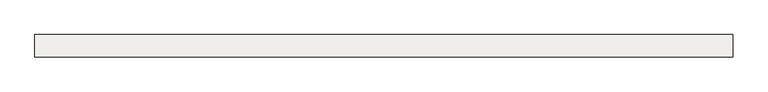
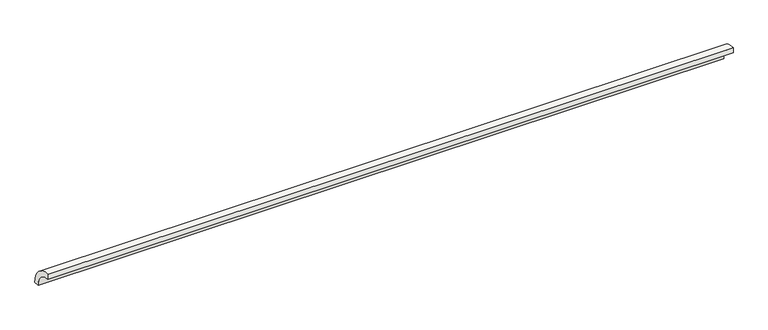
"""IFC4 building model written with IfcOpenShell, lengths in millimetres: slab geometry, ROSA GRES_183 : Pieza 183_Serena_Ocra_Anti-Slip."""

from ifc_helpers import new_model, si_unit, point, frame, frame_2d, origin, origin_2d, place, context, project, spatial, polyline, circle_curve, trimmed, segment, composite_curve, outline, extrude, source, transform, mapped, element, save


def slab_ec17df41(model_context):
    return source(origin(), model_context, "Body", "SweptSolid", [
        extrude(outline(composite_curve([segment(trimmed(circle_curve(origin_2d(), 40.0), [point((0.0, 40.0))], [point((40.0, 0.0))], False, "CARTESIAN"), True, "CONTINUOUS"), segment(polyline([(40.0, 0.0), (30.0265886, 0.0)]), True, "CONTINUOUS"), segment(trimmed(circle_curve(frame_2d((0.0044453, 0.0044453)), 30.0221435), [point((30.0265886, 0.0))], [point((0.0, 30.0265886))], True, "CARTESIAN"), True, "CONTINUOUS"), segment(polyline([(0.0, 30.0265886), (0.0, 40.0)]), True, "CONTINUOUS")], self_intersect=False)), frame((0.0, 0.0, 0.0), z_axis=(1.0, 0.0, 0.0), x_axis=(0.0, 1.0, 0.0)), (0.0, 0.0, 1.0), 1240.0),
    ])


if __name__ == "__main__":
    model = new_model("IFC4")
    model_context = context("Model", 3, world=origin())
    ifc_project = project(units=[si_unit("LENGTHUNIT", "METRE", prefix="MILLI")], contexts=[model_context])
    site = spatial("IfcSite", under=ifc_project)
    building = spatial("IfcBuilding", under=site)
    placement = place(None, origin())
    slab_shape = slab_ec17df41(model_context)
    element("IfcSlab", 1, ObjectType="ROSA GRES_183 : Pieza 183_Serena_Ocra_Anti-Slip", at=placement, inside=building, context=model_context, shape_type="MappedRepresentation", body=[
        mapped(slab_shape, transform((0.0, 0.0, 0.0), x_axis=(1.0, 0.0, 0.0), y_axis=(0.0, 1.0, 0.0), z_axis=(0.0, 0.0, 1.0))),
    ])
    save(model, "model.ifc")
